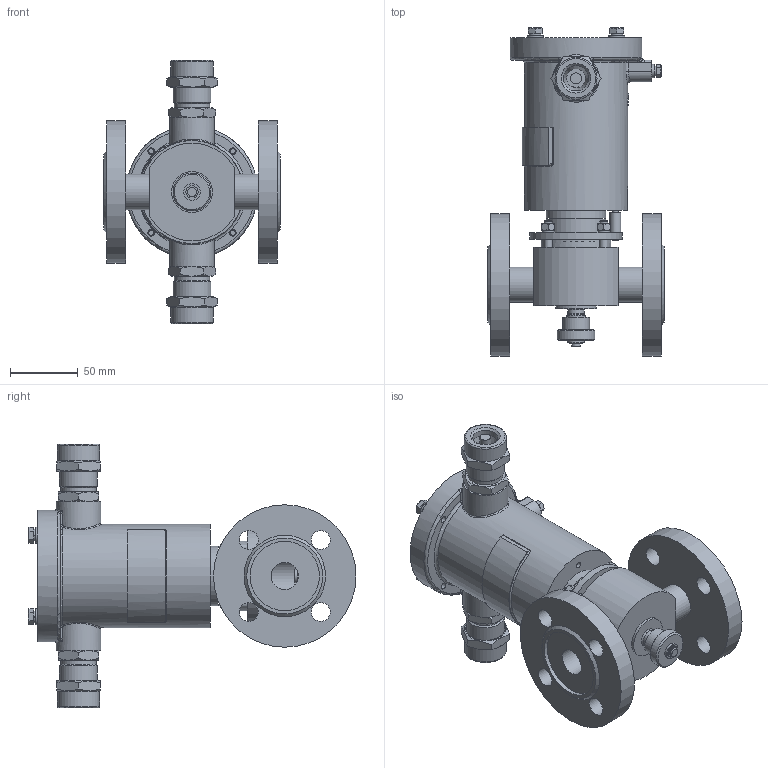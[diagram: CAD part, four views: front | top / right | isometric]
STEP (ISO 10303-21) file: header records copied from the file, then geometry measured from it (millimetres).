
FILE_DESCRIPTION(('STEP AP203'), '1');
FILE_NAME('ÑÅÍÑ DN20PN25-ÍÎ.stp', '2018-09-19T08:39:36', ('Îðëîâ Å.Â.'), ('ÎÎÎ ÍÏÏ Ñåíñîð'), 'ASCON STEP Converter 1.3', 'Kompas 3D', '');
FILE_SCHEMA(('CONFIG_CONTROL_DESIGN','SUPPORT_RESOURCE_SCHEMA'));
Length unit declared in the file: millimetre
Products named in the file (1): 30
Bounding box: 130 x 241.7 x 194 mm (x, y, z)
Volume: 769892.8 mm3; surface area: 229141.5 mm2
Topology: 3 solids, 21 shells, 1875 faces, 4961 edges, 3241 vertices
Faces by surface type: cylinder 982, plane 704, cone 125, bspline 27, torus 21, extrusion 16
Full cylindrical faces by diameter (mm): 2.459 x4, 4 x8, 4.134 x1, 4.5 x2, 4.917 x4, 5 x2, 5.1 x1, 6 x15, 6.3 x2, 6.4 x1, 6.5 x11, 8 x8, 10 x3, 11.8 x1, 12 x5, 12.4 x1, 13 x2, 14 x9, 16 x1, 16.5 x1, 18.632 x2, 20 x5, 22 x2, 22.376 x2, 23.5 x3, 24 x2, 24.5 x3, 25 x2, 26 x9, 26.376 x2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
Entity records: 70773 total; most frequent: CARTESIAN_POINT 22888, DIRECTION 10422, ORIENTED_EDGE 9882, EDGE_CURVE 4941, AXIS2_PLACEMENT_3D 4004, VERTEX_POINT 3237, VECTOR 2414, LINE 2398
